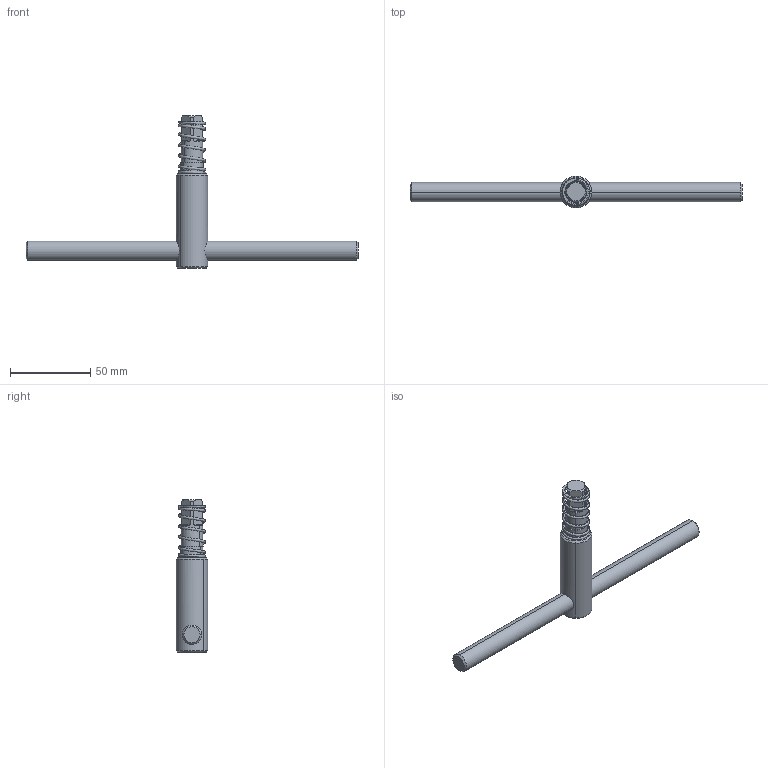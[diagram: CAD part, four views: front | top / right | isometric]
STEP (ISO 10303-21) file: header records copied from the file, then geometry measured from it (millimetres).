
FILE_DESCRIPTION (( 'STEP AP214' ), '1' );
FILE_NAME ('3-889-008P.STEP', '2020-05-28T19:07:10', ( '' ), ( '' ), 'SwSTEP 2.0', 'SolidWorks 2020', '' );
FILE_SCHEMA (( 'AUTOMOTIVE_DESIGN' ));
Length unit declared in the file: millimetre
Products named in the file (4): 3-889-008P-PIN_3-889-008P-PIN; 3-889-008P-SPRING_3-889-008P-SPRING; 3-889-008P-HANDLE_3-889-008P-HANDLE; 3-889-008P
Assembly tree (3 placements, depth 2):
  3-889-008P
    3-889-008P-HANDLE_3-889-008P-HANDLE
    3-889-008P-PIN_3-889-008P-PIN
    3-889-008P-SPRING_3-889-008P-SPRING
Bounding box: 206.5 x 19.67 x 95 mm (x, y, z)
Volume: 44666.5 mm3; surface area: 15757.3 mm2
Topology: 3 solids, 3 shells, 48 faces, 110 edges, 70 vertices
Faces by surface type: plane 18, cylinder 14, cone 12, torus 2, bspline 2
Entity records: 4456 total; most frequent: CARTESIAN_POINT 3234, DIRECTION 232, ORIENTED_EDGE 220, EDGE_CURVE 110, AXIS2_PLACEMENT_3D 96, VERTEX_POINT 70, EDGE_LOOP 52, ADVANCED_FACE 48
